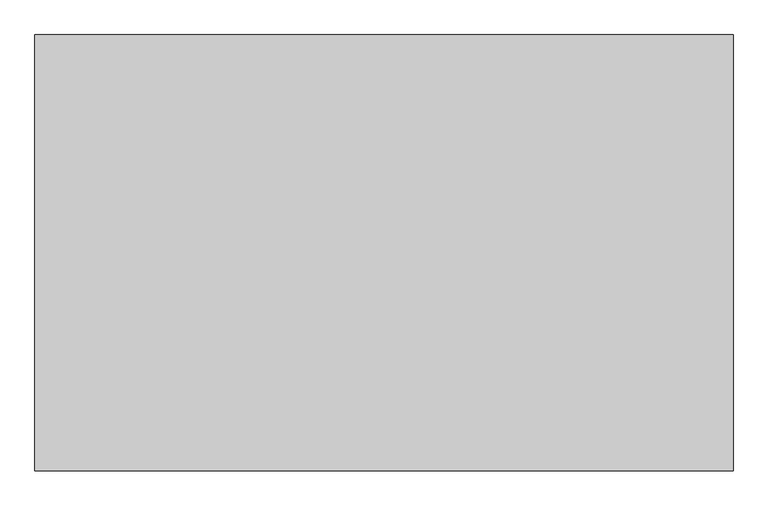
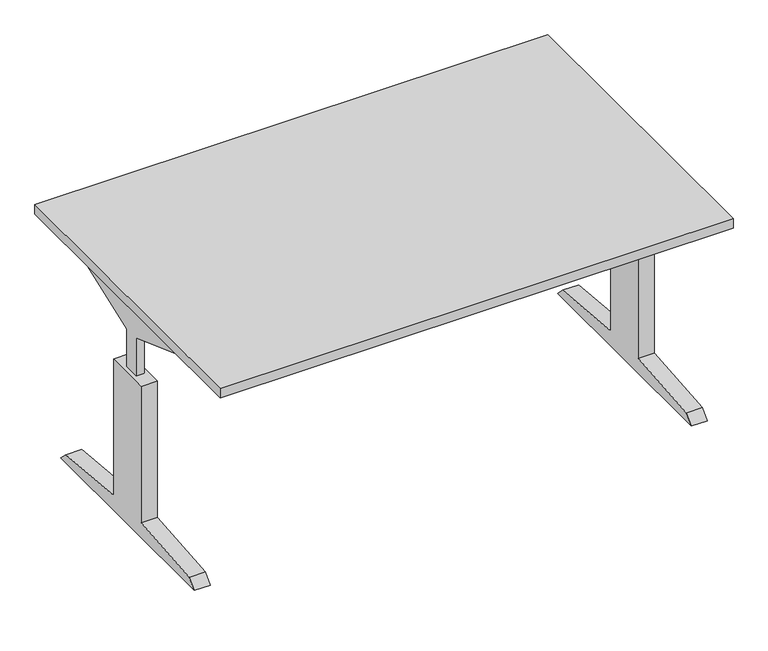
"""IFC4 building model written with IfcOpenShell, lengths in millimetres: furniture geometry, BIMHealth-Console_Desk-LOD2A-v1 : BIMHealth-Console_Desk-LOD2A-v1."""

from ifc_helpers import new_model, si_unit, frame, origin, place, context, project, spatial, polyline, outline, extrude, source, transform, mapped, element, save


def furniture_342fe79f(model_context):
    return source(origin(), model_context, "Body", "SweptSolid", [
        extrude(outline(polyline([(762.5, 74.3249358), (762.5, -74.3249358), (-762.5, -74.3249358), (-762.5, 74.3249358), (762.5, 74.3249358)])), frame((0.0, 0.0, 670.0), z_axis=(0.0, 0.0, 1.0), x_axis=(1.0, 0.0, 0.0)), (0.0, 0.0, 1.0), 50.0),
        extrude(outline(polyline([(800.0, 500.0), (800.0, -500.0), (-800.0, -500.0), (-800.0, 500.0), (800.0, 500.0)])), frame((0.0, 0.0, 720.0), z_axis=(0.0, 0.0, 1.0), x_axis=(1.0, 0.0, 0.0)), (0.0, 0.0, 1.0), 31.2050649),
        extrude(outline(polyline([(-25.0, 500.0), (-25.0, 625.0), (-255.2246921, 708.7949351), (-255.2246921, 720.0), (255.2246921, 720.0), (255.2246921, 708.7949351), (25.0, 625.0), (25.0, 500.0), (-25.0, 500.0)])), frame((762.5, 0.0, 0.0), z_axis=(1.0, 0.0, 0.0), x_axis=(0.0, 1.0, 0.0)), (0.0, 0.0, 1.0), 25.0),
        extrude(outline(polyline([(-25.0, 500.0), (-25.0, 625.0), (-255.2246921, 708.7949351), (-255.2246921, 720.0), (255.2246921, 720.0), (255.2246921, 708.7949351), (25.0, 625.0), (25.0, 500.0), (-25.0, 500.0)])), frame((-787.5, 0.0, 0.0), z_axis=(1.0, 0.0, 0.0), x_axis=(0.0, 1.0, 0.0)), (0.0, 0.0, 1.0), 25.0),
        extrude(outline(polyline([(-360.6750642, 0.0), (-333.3355573, 27.3395069), (-74.3249358, 50.0), (-74.3249358, 500.0), (74.3249358, 500.0), (74.3249358, 50.0), (333.3355573, 27.3395069), (360.6750642, 0.0), (-360.6750642, 0.0)])), frame((750.0, 0.0, 0.0), z_axis=(1.0, 0.0, 0.0), x_axis=(0.0, 1.0, 0.0)), (0.0, 0.0, 1.0), 50.0),
        extrude(outline(polyline([(-360.6750642, 0.0), (-333.3355573, 27.3395069), (-74.3249358, 50.0), (-74.3249358, 500.0), (74.3249358, 500.0), (74.3249358, 50.0), (333.3355573, 27.3395069), (360.6750642, 0.0), (-360.6750642, 0.0)])), frame((-800.0, 0.0, 0.0), z_axis=(1.0, 0.0, 0.0), x_axis=(0.0, 1.0, 0.0)), (0.0, 0.0, 1.0), 50.0),
    ])


if __name__ == "__main__":
    model = new_model("IFC4")
    model_context = context("Model", 3, world=origin())
    ifc_project = project(units=[si_unit("LENGTHUNIT", "METRE", prefix="MILLI")], contexts=[model_context])
    site = spatial("IfcSite", under=ifc_project)
    building = spatial("IfcBuilding", under=site)
    placement = place(None, origin())
    furniture_shape = furniture_342fe79f(model_context)
    element("IfcFurniture", 1, ObjectType="BIMHealth-Console_Desk-LOD2A-v1 : BIMHealth-Console_Desk-LOD2A-v1", at=placement, inside=building, context=model_context, shape_type="MappedRepresentation", body=[
        mapped(furniture_shape, transform((0.0, 0.0, 0.0), x_axis=(1.0, 0.0, 0.0), y_axis=(0.0, 1.0, 0.0), z_axis=(0.0, 0.0, 1.0))),
    ])
    save(model, "model.ifc")
